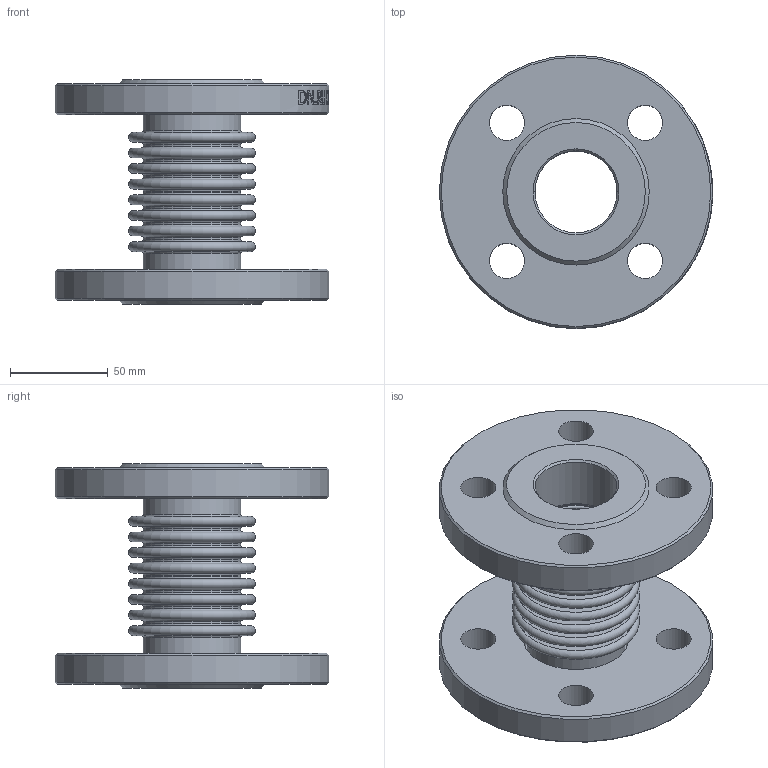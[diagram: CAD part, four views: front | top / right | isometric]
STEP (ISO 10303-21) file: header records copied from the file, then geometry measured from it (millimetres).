
FILE_DESCRIPTION(/* description */ ('D140-02111','CAx-IF Rec.Pracs.---Representation and Presentation of Product Manufacturing Information (PMI)---4.0---2014-10-13'),/* implementation_level */ '2;1');
FILE_NAME(/* name */ '',/* time_stamp */ '2026-04-13T23:10:07+03:00',/* author */ ('DN.RU'),/* organization */ ('DN.RU'),/* preprocessor_version */ 'ST-DEVELOPER v20',/* originating_system */ 'Autodesk Inventor 2025',/* authorisation */ '');
FILE_SCHEMA (('AP242_MANAGED_MODEL_BASED_3D_ENGINEERING_MIM_LF { 1 0 10303 442 1 1 4 }'));
Length unit declared in the file: millimetre
Products named in the file (1): CB-3234-F
Bounding box: 140 x 140 x 115 mm (x, y, z)
Volume: 460021.7 mm3; surface area: 145361.8 mm2
Topology: 1 solids, 1 shells, 330 faces, 814 edges, 542 vertices
Faces by surface type: plane 137, bspline 89, cylinder 48, torus 48, cone 8
Full cylindrical faces by diameter (mm): 18 x8, 42 x2, 48 x7, 50 x9, 54 x2, 140 x2
Entity records: 12985 total; most frequent: CARTESIAN_POINT 4639, ORIENTED_EDGE 1628, DIRECTION 1524, EDGE_CURVE 814, AXIS2_PLACEMENT_3D 609, VERTEX_POINT 542, STYLED_ITEM 421, EDGE_LOOP 404
